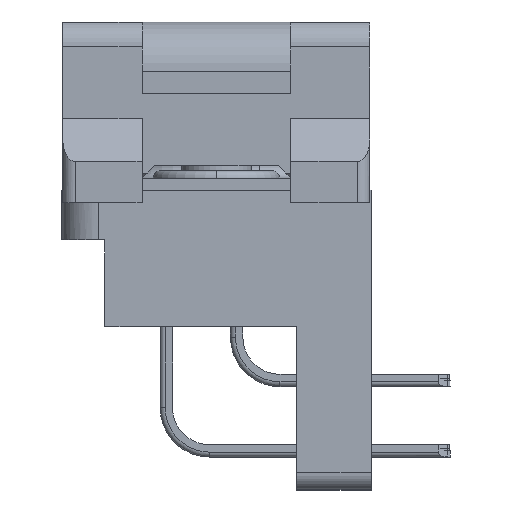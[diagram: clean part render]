
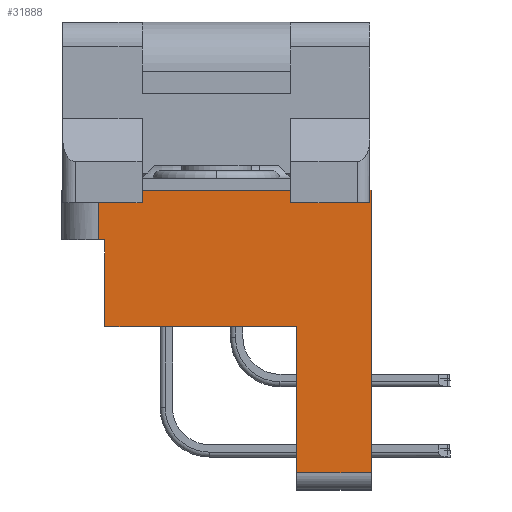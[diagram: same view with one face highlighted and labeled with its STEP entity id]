
A CAD part, left-side view. The second image highlights one B-rep face of the part: STEP entity #31888.
In plain terms, the highlighted planar face has unit normal (-1, 0, 0).
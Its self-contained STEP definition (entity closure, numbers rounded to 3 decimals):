
#60 = ORIENTED_EDGE ( 'NONE', *, *, #44635, .T. ) ;
#221 = CARTESIAN_POINT ( 'NONE',  ( -26.52, 3., -0.5 ) ) ;
#753 = CARTESIAN_POINT ( 'NONE',  ( -26.52, -6.25, -11.4 ) ) ;
#1200 = CARTESIAN_POINT ( 'NONE',  ( -26.52, 4.75, -5.5 ) ) ;
#1774 = VERTEX_POINT ( 'NONE', #28588 ) ;
#2136 = CARTESIAN_POINT ( 'NONE',  ( -26.52, 6.25, -0.5 ) ) ;
#2593 = ORIENTED_EDGE ( 'NONE', *, *, #45001, .T. ) ;
#2810 = EDGE_CURVE ( 'NONE', #44557, #24994, #24288, .T. ) ;
#3021 = CARTESIAN_POINT ( 'NONE',  ( -26.52, -6.2, -5.5 ) ) ;
#3599 = VECTOR ( 'NONE', #21777, 1000. ) ;
#3847 = LINE ( 'NONE', #3882, #32003 ) ;
#3882 = CARTESIAN_POINT ( 'NONE',  ( -26.52, 7.5, -2. ) ) ;
#4074 = CARTESIAN_POINT ( 'NONE',  ( -26.52, 6.25, -5.5 ) ) ;
#4601 = VECTOR ( 'NONE', #42668, 1000. ) ;
#5201 = CARTESIAN_POINT ( 'NONE',  ( -26.52, 4.5, -5.5 ) ) ;
#5536 = CARTESIAN_POINT ( 'NONE',  ( -26.52, 3., -5.5 ) ) ;
#6624 = LINE ( 'NONE', #7002, #39874 ) ;
#7002 = CARTESIAN_POINT ( 'NONE',  ( -26.52, 6.25, 0. ) ) ;
#7069 = LINE ( 'NONE', #3021, #27773 ) ;
#8892 = DIRECTION ( 'NONE',  ( 0., 0., 1. ) ) ;
#9099 = FACE_OUTER_BOUND ( 'NONE', #33031, .T. ) ;
#9648 = DIRECTION ( 'NONE',  ( 0., 0., 1. ) ) ;
#10360 = LINE ( 'NONE', #21717, #12023 ) ;
#10434 = EDGE_CURVE ( 'NONE', #45618, #33073, #31673, .T. ) ;
#11426 = LINE ( 'NONE', #26748, #38318 ) ;
#11488 = DIRECTION ( 'NONE',  ( 0., -1., 0. ) ) ;
#11573 = VECTOR ( 'NONE', #9648, 1000. ) ;
#11617 = VERTEX_POINT ( 'NONE', #45677 ) ;
#12023 = VECTOR ( 'NONE', #33108, 1000. ) ;
#12114 = CARTESIAN_POINT ( 'NONE',  ( -26.52, 6.25, -5.5 ) ) ;
#12314 = ORIENTED_EDGE ( 'NONE', *, *, #10434, .T. ) ;
#12821 = EDGE_CURVE ( 'NONE', #13614, #29882, #3847, .T. ) ;
#13614 = VERTEX_POINT ( 'NONE', #37618 ) ;
#13815 = EDGE_CURVE ( 'NONE', #18136, #33073, #42026, .T. ) ;
#13933 = CARTESIAN_POINT ( 'NONE',  ( -26.52, 6.25, 0. ) ) ;
#15335 = DIRECTION ( 'NONE',  ( 0., -1., 0. ) ) ;
#15346 = VERTEX_POINT ( 'NONE', #45472 ) ;
#15782 = DIRECTION ( 'NONE',  ( -1., 0., 0. ) ) ;
#16192 = EDGE_CURVE ( 'NONE', #24994, #15346, #24100, .T. ) ;
#16356 = EDGE_CURVE ( 'NONE', #16521, #29882, #10360, .T. ) ;
#16497 = VERTEX_POINT ( 'NONE', #30704 ) ;
#16521 = VERTEX_POINT ( 'NONE', #5201 ) ;
#16769 = ORIENTED_EDGE ( 'NONE', *, *, #36532, .T. ) ;
#17063 = CARTESIAN_POINT ( 'NONE',  ( -26.52, -3., -5.5 ) ) ;
#18136 = VERTEX_POINT ( 'NONE', #29745 ) ;
#18205 = ORIENTED_EDGE ( 'NONE', *, *, #23842, .F. ) ;
#18438 = CARTESIAN_POINT ( 'NONE',  ( -26.52, -3., 0. ) ) ;
#18467 = LINE ( 'NONE', #17063, #11573 ) ;
#19105 = EDGE_CURVE ( 'NONE', #44557, #43513, #6624, .T. ) ;
#19535 = DIRECTION ( 'NONE',  ( 0., 0., 1. ) ) ;
#20124 = DIRECTION ( 'NONE',  ( 0., 0., -1. ) ) ;
#20159 = CARTESIAN_POINT ( 'NONE',  ( -26.52, 6.25, -0.5 ) ) ;
#20299 = VECTOR ( 'NONE', #20124, 1000. ) ;
#21717 = CARTESIAN_POINT ( 'NONE',  ( -26.52, 4.5, -5.5 ) ) ;
#21777 = DIRECTION ( 'NONE',  ( 0., -1., 0. ) ) ;
#21911 = VECTOR ( 'NONE', #27268, 1000. ) ;
#22109 = EDGE_CURVE ( 'NONE', #1774, #45618, #35085, .T. ) ;
#23344 = LINE ( 'NONE', #1200, #34818 ) ;
#23842 = EDGE_CURVE ( 'NONE', #1774, #33512, #11426, .T. ) ;
#24100 = LINE ( 'NONE', #2136, #4601 ) ;
#24288 = LINE ( 'NONE', #5536, #20299 ) ;
#24994 = VERTEX_POINT ( 'NONE', #221 ) ;
#25170 = LINE ( 'NONE', #20159, #32638 ) ;
#26275 = CARTESIAN_POINT ( 'NONE',  ( -26.52, -6.25, 0. ) ) ;
#26427 = CARTESIAN_POINT ( 'NONE',  ( -26.52, -6.25, -11.4 ) ) ;
#26748 = CARTESIAN_POINT ( 'NONE',  ( -26.52, -3.25, -5.5 ) ) ;
#27189 = PLANE ( 'NONE',  #45996 ) ;
#27268 = DIRECTION ( 'NONE',  ( 0., 0., 1. ) ) ;
#27743 = CARTESIAN_POINT ( 'NONE',  ( -26.52, -6.25, -5.5 ) ) ;
#27773 = VECTOR ( 'NONE', #32098, 1000. ) ;
#28588 = CARTESIAN_POINT ( 'NONE',  ( -26.52, -3.25, -11.4 ) ) ;
#28707 = DIRECTION ( 'NONE',  ( 0., -1., 0. ) ) ;
#29745 = CARTESIAN_POINT ( 'NONE',  ( -26.52, -6.2, 0. ) ) ;
#29882 = VERTEX_POINT ( 'NONE', #43142 ) ;
#30396 = EDGE_CURVE ( 'NONE', #16497, #43513, #18467, .T. ) ;
#30704 = CARTESIAN_POINT ( 'NONE',  ( -26.52, -3., -0.5 ) ) ;
#31673 = LINE ( 'NONE', #27743, #21911 ) ;
#31888 = ADVANCED_FACE ( 'NONE', ( #9099 ), #27189, .T. ) ;
#32003 = VECTOR ( 'NONE', #33256, 1000. ) ;
#32098 = DIRECTION ( 'NONE',  ( 0., 0., -1. ) ) ;
#32638 = VECTOR ( 'NONE', #35054, 1000. ) ;
#33031 = EDGE_LOOP ( 'NONE', ( #45280, #42214, #39115, #43823, #33135, #43472, #2593, #18205, #37871, #12314, #34942, #16769, #60, #33055 ) ) ;
#33055 = ORIENTED_EDGE ( 'NONE', *, *, #30396, .T. ) ;
#33073 = VERTEX_POINT ( 'NONE', #26275 ) ;
#33108 = DIRECTION ( 'NONE',  ( 0., 0., 1. ) ) ;
#33135 = ORIENTED_EDGE ( 'NONE', *, *, #12821, .T. ) ;
#33256 = DIRECTION ( 'NONE',  ( 0., -1., 0. ) ) ;
#33512 = VERTEX_POINT ( 'NONE', #36548 ) ;
#34037 = EDGE_CURVE ( 'NONE', #15346, #13614, #23344, .T. ) ;
#34818 = VECTOR ( 'NONE', #41595, 1000. ) ;
#34876 = VECTOR ( 'NONE', #11488, 1000. ) ;
#34942 = ORIENTED_EDGE ( 'NONE', *, *, #13815, .F. ) ;
#35054 = DIRECTION ( 'NONE',  ( 0., 1., 0. ) ) ;
#35085 = LINE ( 'NONE', #26427, #39657 ) ;
#36532 = EDGE_CURVE ( 'NONE', #18136, #11617, #7069, .T. ) ;
#36548 = CARTESIAN_POINT ( 'NONE',  ( -26.52, -3.25, -5.5 ) ) ;
#37618 = CARTESIAN_POINT ( 'NONE',  ( -26.52, 4.75, -2. ) ) ;
#37871 = ORIENTED_EDGE ( 'NONE', *, *, #22109, .T. ) ;
#38318 = VECTOR ( 'NONE', #19535, 1000. ) ;
#39115 = ORIENTED_EDGE ( 'NONE', *, *, #16192, .T. ) ;
#39445 = LINE ( 'NONE', #4074, #34876 ) ;
#39657 = VECTOR ( 'NONE', #15335, 1000. ) ;
#39874 = VECTOR ( 'NONE', #28707, 1000. ) ;
#41595 = DIRECTION ( 'NONE',  ( 0., 0., -1. ) ) ;
#42026 = LINE ( 'NONE', #13933, #3599 ) ;
#42214 = ORIENTED_EDGE ( 'NONE', *, *, #2810, .T. ) ;
#42668 = DIRECTION ( 'NONE',  ( 0., 1., 0. ) ) ;
#43142 = CARTESIAN_POINT ( 'NONE',  ( -26.52, 4.5, -2. ) ) ;
#43472 = ORIENTED_EDGE ( 'NONE', *, *, #16356, .F. ) ;
#43513 = VERTEX_POINT ( 'NONE', #18438 ) ;
#43823 = ORIENTED_EDGE ( 'NONE', *, *, #34037, .T. ) ;
#44557 = VERTEX_POINT ( 'NONE', #44964 ) ;
#44635 = EDGE_CURVE ( 'NONE', #11617, #16497, #25170, .T. ) ;
#44964 = CARTESIAN_POINT ( 'NONE',  ( -26.52, 3., 0. ) ) ;
#45001 = EDGE_CURVE ( 'NONE', #16521, #33512, #39445, .T. ) ;
#45280 = ORIENTED_EDGE ( 'NONE', *, *, #19105, .F. ) ;
#45472 = CARTESIAN_POINT ( 'NONE',  ( -26.52, 4.75, -0.5 ) ) ;
#45618 = VERTEX_POINT ( 'NONE', #753 ) ;
#45677 = CARTESIAN_POINT ( 'NONE',  ( -26.52, -6.2, -0.5 ) ) ;
#45996 = AXIS2_PLACEMENT_3D ( 'NONE', #12114, #15782, #8892 ) ;
